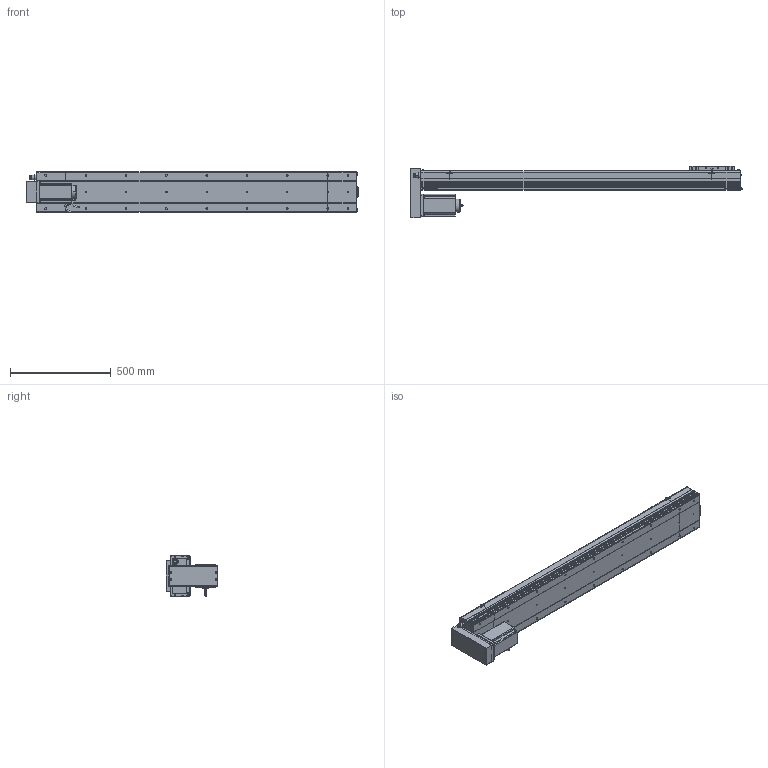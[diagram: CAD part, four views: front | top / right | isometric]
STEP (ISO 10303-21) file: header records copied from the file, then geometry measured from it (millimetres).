
FILE_DESCRIPTION (( 'STEP AP214' ), '1' );
FILE_NAME ('D20 CSH BM S1300.STEP', '2010-06-30T08:23:04', ( 'Conseil Régional Haute-Normandie' ), ( 'Conseil Régional Haute-Normandie' ), 'SwSTEP 2.0', 'SolidWorks 2010', '' );
FILE_SCHEMA (( 'AUTOMOTIVE_DESIGN' ));
Length unit declared in the file: millimetre
Products named in the file (31): vis M5 L47_Default; vis M5 L15_Default; Couvercle Head BM_Default; clavette; Corp Head BM D20_Default; Cache Moteur BM D20_Default; vis M5 L30_Default; ecrou_Default; D20 CSH BM S1300; Plaque De Serrage Head BM D20_Default; Couvercle_Default; Corp Tail D20+100_Default; Tail D20+100_Default; Corp D20 S1300_Default; Plaque De Serrage D20_Default; Plaque de Bout Tail D20_Default; Chariot D20_Default; Couvercle S1300_Default; Corp S1300_Default; Glissiere_Default; Support Chariot D20_Default; Support moteur BM D20_Default; Plaque de Bout Head BM D20_Default; Head BM D20_Default; corps 110BLDC170A-630x; avant 110BLDC170A-630x; Moteur motionking 110BLDC170A-640x; Conecteur_Default; Conecteur2_Default; codeur 110BLDC170A-630x
Assembly tree (58 placements, depth 4):
  D20 CSH BM S1300
    Head BM D20_Default
      Support moteur BM D20_Default
      vis M5 L47_Default  x4
      vis M5 L30_Default  x4
      Couvercle Head BM_Default
      vis M5 L15_Default  x6
      Plaque De Serrage Head BM D20_Default
      Plaque de Bout Head BM D20_Default
      Cache Moteur BM D20_Default
      Moteur motionking 110BLDC170A-640x
        codeur 110BLDC170A-630x
        clavette
        Conecteur2_Default
        Conecteur_Default
        corps 110BLDC170A-630x
        avant 110BLDC170A-630x
      ecrou_Default  x4
      Corp Head BM D20_Default
    Chariot D20_Default
      Glissiere_Default
      vis M5 L15_Default  x8
      Chariot D20_Default
      Support Chariot D20_Default
    Tail D20+100_Default
      vis M5 L15_Default  x6
      Plaque de Bout Tail D20_Default
      Plaque De Serrage D20_Default
      Couvercle_Default
      Corp Tail D20+100_Default
    Corp D20 S1300_Default
      Couvercle S1300_Default
      Corp S1300_Default
Bounding box: 1647.7 x 257.5 x 206 mm (x, y, z)
Volume: 13034724.3 mm3; surface area: 2452415.7 mm2
Topology: 95 solids, 95 shells, 3538 faces, 8905 edges, 5805 vertices
Faces by surface type: plane 1983, bspline 806, cylinder 611, torus 79, cone 59
Entity records: 157393 total; most frequent: CARTESIAN_POINT 81958, ORIENTED_EDGE 14958, DIRECTION 11219, EDGE_CURVE 7479, VERTEX_POINT 4953, LINE 4895, VECTOR 4895, EDGE_LOOP 3192
